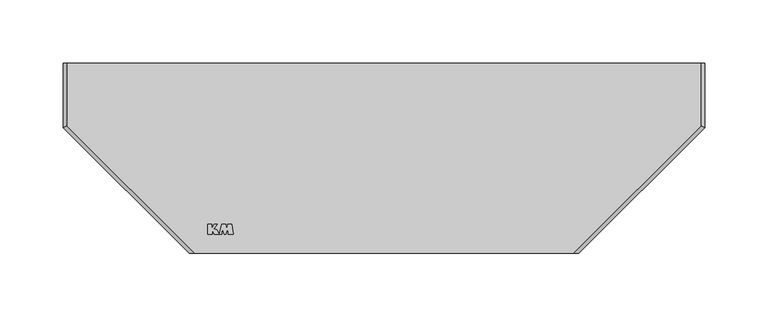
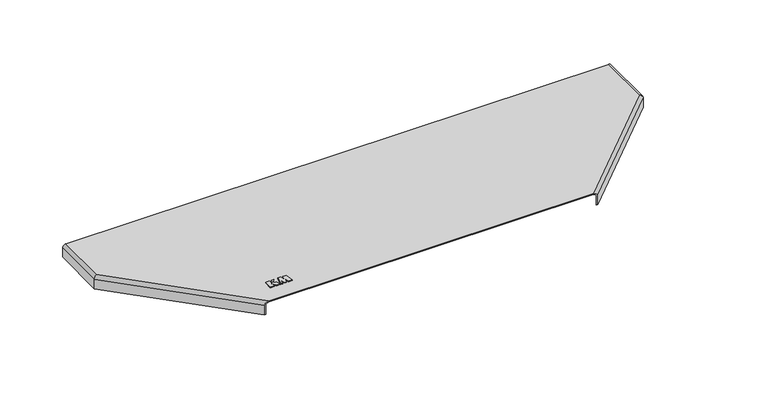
"""IFC4 building model written with IfcOpenShell, lengths in millimetres: cable carrier fitting geometry, КМ Профиль Крышка Т-ответвителя : Крышка Т-ответвителя."""

import ifcopenshell
import ifcopenshell.guid

model = None  # the IFC model being written
_history = None  # IfcOwnerHistory: only IFC2X3 demands one
_inside = {}  # id of a spatial element -> (the spatial element, [elements in it])
_under = {}  # id of a project, library or spatial element -> (it, [spatial elements below it])
_declared = {}  # id of a project -> (the project, [libraries it declares])
_typed = {}  # id of a type object -> (the type object, [elements of that type])
_made_of = {}  # id of a material, layer set ... -> (it, [elements and type objects made of it])


def new_model(schema):
    """Start an empty IFC model of exactly this schema.

    Asked for "IFC4X3", IfcOpenShell would pick the latest addendum, in which some entities
    have other attributes; the version numbers below select the first issue.
    IFC2X3 requires an IfcOwnerHistory on every rooted entity: one is made here for all.
    """
    global model, _history
    if schema == "IFC4X3":
        model = ifcopenshell.file(schema_version=(4, 3, 0, 0))
    else:
        model = ifcopenshell.file(schema=schema)
    _inside.clear()
    _under.clear()
    _declared.clear()
    _typed.clear()
    _made_of.clear()
    _history = None
    if model.schema == "IFC2X3":
        org = make("IfcOrganization", Name="unknown")
        user = make(
            "IfcPersonAndOrganization",
            ThePerson=make("IfcPerson", FamilyName="unknown"),
            TheOrganization=org,
        )
        app = make(
            "IfcApplication",
            ApplicationDeveloper=org,
            Version="unknown",
            ApplicationFullName="unknown",
            ApplicationIdentifier="unknown",
        )
        _history = make(
            "IfcOwnerHistory",
            OwningUser=user,
            OwningApplication=app,
            ChangeAction="ADDED",
            CreationDate=0,
        )
    return model


def make(cls, **values):
    """One entity of the class cls with the attributes given. An attribute that is None is left unset."""
    return model.create_entity(
        cls, **{name: value for name, value in values.items() if value is not None}
    )


def rooted(cls, **values):
    """An entity with a GlobalId (a new one), such as an element, a storey or a relation."""
    return make(cls, GlobalId=ifcopenshell.guid.new(), OwnerHistory=_history, **values)


def si_unit(unit_type, name, prefix=None):
    """IfcSIUnit, for example si_unit("LENGTHUNIT", "METRE", prefix="MILLI")."""
    return make("IfcSIUnit", UnitType=unit_type, Prefix=prefix, Name=name)


def assignment(units):
    """IfcUnitAssignment: the units of a project."""
    return None if units is None else make("IfcUnitAssignment", Units=units)


def point(xyz):
    """IfcCartesianPoint."""
    return None if xyz is None else make("IfcCartesianPoint", Coordinates=xyz)


def direction(xyz):
    """IfcDirection."""
    return None if xyz is None else make("IfcDirection", DirectionRatios=xyz)


def frame(location, z_axis=None, x_axis=None):
    """IfcAxis2Placement3D, a coordinate frame: its origin and axes. An axis left out is left unset."""
    return make(
        "IfcAxis2Placement3D",
        Location=point(location),
        Axis=direction(z_axis),
        RefDirection=direction(x_axis),
    )


def origin():
    """The frame at (0, 0, 0) with its axes left unset."""
    return frame((0.0, 0.0, 0.0))


def place(relative_to, where):
    """IfcLocalPlacement: puts the frame where relative to a parent placement (None: the world)."""
    return make(
        "IfcLocalPlacement", PlacementRelTo=relative_to, RelativePlacement=where
    )


def context(
    kind, dimensions, precision=None, world=None, true_north=None, identifier=None
):
    """IfcGeometricRepresentationContext, for example the 3D "Model" context."""
    return make(
        "IfcGeometricRepresentationContext",
        ContextIdentifier=identifier,
        ContextType=kind,
        CoordinateSpaceDimension=dimensions,
        Precision=precision,
        WorldCoordinateSystem=world,
        TrueNorth=true_north,
    )


def project(units=None, contexts=None):
    """IfcProject with its units and contexts."""
    return rooted(
        "IfcProject",
        Name="project",
        RepresentationContexts=contexts,
        UnitsInContext=assignment(units),
    )


def spatial(cls, under=None, at=None, **own):
    """A site, building, storey or space (cls), placed at a placement, below another one or the project."""
    s = rooted(cls, ObjectPlacement=at, **own)
    if under is not None:
        _under.setdefault(under.id(), (under, []))[1].append(s)
    return s


def polyline(points):
    """IfcPolyline through the points."""
    return make("IfcPolyline", Points=[point(p) for p in points])


def circle_curve(where, radius):
    """IfcCircle in the frame where."""
    return make("IfcCircle", Position=where, Radius=radius)


def ellipse_curve(where, semi_axis1, semi_axis2):
    """IfcEllipse in the frame where."""
    return make(
        "IfcEllipse", Position=where, SemiAxis1=semi_axis1, SemiAxis2=semi_axis2
    )


def outline(outer, holes=None, kind="AREA"):
    """IfcArbitraryClosedProfileDef: a profile drawn as a closed curve; with holes, ...WithVoids."""
    if holes is None:
        return make("IfcArbitraryClosedProfileDef", ProfileType=kind, OuterCurve=outer)
    return make(
        "IfcArbitraryProfileDefWithVoids",
        ProfileType=kind,
        OuterCurve=outer,
        InnerCurves=holes,
    )


def extrude(swept, where, along, depth):
    """IfcExtrudedAreaSolid: the profile swept, set in the frame where, extruded along a direction by depth."""
    return make(
        "IfcExtrudedAreaSolid",
        SweptArea=swept,
        Position=where,
        ExtrudedDirection=direction(along),
        Depth=depth,
    )


def shape(context_of_items, identifier, shape_type, items):
    """IfcShapeRepresentation: the items that make up one representation, for example the "Body"."""
    return make(
        "IfcShapeRepresentation",
        ContextOfItems=context_of_items,
        RepresentationIdentifier=identifier,
        RepresentationType=shape_type,
        Items=items,
    )


def source(mapping_origin, context_of_items, identifier, shape_type, items):
    """IfcRepresentationMap: a shape defined once, which mapped items show again and again."""
    return make(
        "IfcRepresentationMap",
        MappingOrigin=mapping_origin,
        MappedRepresentation=shape(context_of_items, identifier, shape_type, items),
    )


def transform(
    local_origin,
    x_axis=None,
    y_axis=None,
    z_axis=None,
    scale=None,
    scale2=None,
    scale3=None,
    uniform=True,
):
    """IfcCartesianTransformationOperator3D, or its non-uniform kind. x_axis, y_axis, z_axis: its Axis1, 2, 3."""
    if uniform:
        return make(
            "IfcCartesianTransformationOperator3D",
            Axis1=direction(x_axis),
            Axis2=direction(y_axis),
            LocalOrigin=point(local_origin),
            Scale=scale,
            Axis3=direction(z_axis),
        )
    return make(
        "IfcCartesianTransformationOperator3DnonUniform",
        Axis1=direction(x_axis),
        Axis2=direction(y_axis),
        LocalOrigin=point(local_origin),
        Scale=scale,
        Axis3=direction(z_axis),
        Scale2=scale2,
        Scale3=scale3,
    )


def mapped(mapping_source, mapping_target):
    """IfcMappedItem: shows the shape of a source again, moved by a transform."""
    return make(
        "IfcMappedItem", MappingSource=mapping_source, MappingTarget=mapping_target
    )


def made_of(thing, what):
    """Note that an element or type object is made of a material, layer set ...; save() writes the relation."""
    if what is not None:
        _made_of.setdefault(what.id(), (what, []))[1].append(thing)
    return thing


def element(
    cls,
    number,
    at=None,
    inside=None,
    cuts=None,
    type_object=None,
    material=None,
    context=None,
    identifier="Body",
    shape_type=None,
    held_by="IfcProductDefinitionShape",
    body=None,
    shapes=None,
    **own,
):
    """One element of the class cls, such as IfcWall. Its Tag is "e" and its number.

    at: its placement. inside: the storey or other place that contains it. cuts: it is an
    opening in that element (IfcRelVoidsElement). A single representation is given by context,
    identifier, shape_type and body (its items); several are given by shapes. held_by: the class
    of the entity that holds the representations. save() writes the other relations.
    """
    e = rooted(cls, Tag="e%d" % number, ObjectPlacement=at, **own)
    if body is not None:
        shapes = [shape(context, identifier, shape_type, body)]
    if shapes is not None:
        e.Representation = make(held_by, Representations=shapes)
    if inside is not None:
        _inside.setdefault(inside.id(), (inside, []))[1].append(e)
    if cuts is not None:
        rooted(
            "IfcRelVoidsElement", RelatingBuildingElement=cuts, RelatedOpeningElement=e
        )
    if type_object is not None:
        _typed.setdefault(type_object.id(), (type_object, []))[1].append(e)
    return made_of(e, material)


def aggregate(whole, parts):
    """IfcRelAggregates: a whole, such as a stair, and the parts it consists of."""
    return rooted("IfcRelAggregates", RelatingObject=whole, RelatedObjects=parts)


def save(model, path):
    """Write the relations noted so far, then the file.

    IfcRelAggregates (storeys below a building ...), IfcRelContainedInSpatialStructure (elements
    in a storey), IfcRelDefinesByType, IfcRelAssociatesMaterial and IfcRelDeclares: one each for
    every whole, place, type object, material and project.
    """
    for whole, parts in _under.values():
        aggregate(whole, parts)
    for where, things in _inside.values():
        rooted(
            "IfcRelContainedInSpatialStructure",
            RelatedElements=things,
            RelatingStructure=where,
        )
    for kind, things in _typed.values():
        rooted("IfcRelDefinesByType", RelatedObjects=things, RelatingType=kind)
    for what, things in _made_of.values():
        rooted("IfcRelAssociatesMaterial", RelatedObjects=things, RelatingMaterial=what)
    for by, libraries in _declared.values():
        rooted("IfcRelDeclares", RelatingContext=by, RelatedDefinitions=libraries)
    model.write(path)


def plane_surface(at):
    """IfcPlane: the flat surface through the origin of the frame at, square to its z axis."""
    return make("IfcPlane", Position=at)


def cylinder_surface(at, radius):
    """IfcCylindricalSurface: all points at the distance radius from the z axis of the frame at."""
    return make("IfcCylindricalSurface", Position=at, Radius=radius)


def revolved_surface(curve, axis_point, axis_direction):
    """IfcSurfaceOfRevolution: the curve turned about the line through axis_point along axis_direction."""
    return make(
        "IfcSurfaceOfRevolution",
        SweptCurve=make("IfcArbitraryOpenProfileDef", ProfileType="CURVE", Curve=curve),
        AxisPosition=make("IfcAxis1Placement", Location=point(axis_point), Axis=direction(axis_direction)),
    )


def advanced_brep(points, edges, surfaces, faces):
    """IfcAdvancedBrep: a solid bounded by faces that lie on surfaces and meet in shared edges.

    An edge is (start, end): straight between two places in points (the first is 0);
    or (start, end, curve); or (start, end, curve, False) where it runs against its curve.
    A face is (place in surfaces, loops), or (place, loops, False) where it looks against
    its surface's normal. A loop lists edges by number (the first is 1), with a minus sign
    where the edge is run from its end to its start. The first loop is the outer one.
    """
    corners = [point(p) for p in points]
    vertices = [make("IfcVertexPoint", VertexGeometry=c) for c in corners]
    made = []
    for start, end, *more in edges:
        made.append(
            make(
                "IfcEdgeCurve",
                EdgeStart=vertices[start],
                EdgeEnd=vertices[end],
                EdgeGeometry=more[0] if more else make("IfcPolyline", Points=[corners[start], corners[end]]),
                SameSense=more[1] if len(more) > 1 else True,
            )
        )
    hull = []
    for where, loops, *sense in faces:
        bounds = []
        for j, loop in enumerate(loops):
            ring = [make("IfcOrientedEdge", EdgeElement=made[abs(k) - 1], Orientation=k > 0) for k in loop]
            bounds.append(
                make(
                    "IfcFaceOuterBound" if j == 0 else "IfcFaceBound",
                    Bound=make("IfcEdgeLoop", EdgeList=ring),
                    Orientation=True,
                )
            )
        hull.append(make("IfcAdvancedFace", Bounds=bounds, FaceSurface=surfaces[where], SameSense=sense[0] if sense else True))
    return make("IfcAdvancedBrep", Outer=make("IfcClosedShell", CfsFaces=hull))


def cable_carrier_fitting_2c5ead5b(model_context):
    return source(origin(), model_context, "Body", "SolidModel", [
        extrude(outline(polyline([(-139.2388781, -126.986157), (-135.7316192, -126.986157), (-135.7316192, -130.564509), (-133.8289757, -126.986157), (-131.703011, -126.986157), (-134.1694955, -130.5086619), (-131.9277444, -131.194034), (-130.0604353, -134.737421), (-133.9588467, -134.737421), (-135.6630512, -131.5720802), (-135.6630512, -134.737421), (-139.2388781, -134.737421), (-139.2388781, -126.986157)])), frame((0.0, 0.0, 3.0), z_axis=(0.0, 0.0, 1.0), x_axis=(1.0, 0.0, 0.0)), (0.0, 0.0, 1.0), 0.8),
        extrude(outline(polyline([(-127.9962759, -134.737421), (-129.8943395, -134.737421), (-128.0740589, -126.9647569), (-125.0433304, -126.9647569), (-124.2768297, -130.0390232), (-123.2555223, -126.9623682), (-120.0615674, -126.9623682), (-118.8700699, -134.7429915), (-122.7725105, -134.7429915), (-123.2500032, -130.0541919), (-124.7300717, -134.7434681), (-126.2045824, -134.7434681), (-127.6126012, -130.0696135), (-127.9962759, -134.737421)])), frame((0.0, 0.0, 3.0), z_axis=(0.0, 0.0, 1.0), x_axis=(1.0, 0.0, 0.0)), (0.0, 0.0, 1.0), 0.8),
        advanced_brep(
        [(250.0, 0.0, 3.0), (-250.0, 0.0, 3.0), (-250.0, -49.5, 3.0), (-149.5, -150.0, 3.0), (149.5, -150.0, 3.0), (250.0, -49.5, 3.0), (-250.0, 0.0, 2.0), (250.0, 0.0, 2.0), (250.0, -49.5, 2.0), (149.5, -150.0, 2.0), (-149.5, -150.0, 2.0), (-250.0, -49.5, 2.0), (253.0, 0.0, 0.0), (253.0, 0.0, -9.0), (252.0, 0.0, -9.0), (252.0, 0.0, 0.0), (-252.0, 0.0, 0.0), (-252.0, 0.0, -9.0), (-253.0, 0.0, -9.0), (-253.0, 0.0, 0.0), (253.0, -50.7426407, -9.0), (153.7426407, -150.0, -9.0), (152.3284271, -150.0, -9.0), (252.0, -50.3284271, -9.0), (-252.0, -50.3284271, -9.0), (-152.3284271, -150.0, -9.0), (-153.7426407, -150.0, -9.0), (-253.0, -50.7426407, -9.0), (-252.0, -50.3284271, 0.0), (-152.3284271, -150.0, 0.0), (-253.0, -50.7426407, 0.0), (-153.7426407, -150.0, 0.0), (252.0, -50.3284271, 0.0), (152.3284271, -150.0, 0.0), (253.0, -50.7426407, 0.0), (153.7426407, -150.0, 0.0)],
        [
            (0, 1),
            (1, 2),
            (2, 3),
            (3, 4),
            (4, 5),
            (5, 0),
            (6, 7),
            (7, 8),
            (8, 9),
            (9, 10),
            (10, 11),
            (11, 6),
            (0, 12, circle_curve(frame((250.0, 0.0, 0.0), z_axis=(0.0, 1.0, 0.0), x_axis=(-1.0, 0.0, 0.0)), 3.0)),
            (12, 13),
            (13, 14),
            (14, 15),
            (15, 7, circle_curve(frame((250.0, 0.0, 0.0), z_axis=(0.0, -1.0, 0.0), x_axis=(-1.0, 0.0, 0.0)), 2.0)),
            (6, 16, circle_curve(frame((-250.0, 0.0, 0.0), z_axis=(0.0, -1.0, 0.0), x_axis=(1.0, 0.0, 0.0)), 2.0)),
            (16, 17),
            (17, 18),
            (18, 19),
            (19, 1, circle_curve(frame((-250.0, 0.0, 0.0), z_axis=(0.0, 1.0, 0.0), x_axis=(1.0, 0.0, 0.0)), 3.0)),
            (13, 20),
            (20, 21),
            (21, 22),
            (22, 23),
            (23, 14),
            (17, 24),
            (24, 25),
            (25, 26),
            (26, 27),
            (27, 18),
            (28, 11, ellipse_curve(frame((-250.0, -49.5, 0.0), z_axis=(-0.38268343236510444, 0.9238795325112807, 0.0), x_axis=(0.9238795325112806, 0.38268343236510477, 0.0)), 2.1647844, 2.0)),
            (10, 29, ellipse_curve(frame((-149.5, -150.0, 0.0), z_axis=(0.0, -1.0, 0.0), x_axis=(1.0, 0.0, 0.0)), 2.8284271, 2.0)),
            (29, 28),
            (24, 28),
            (29, 25),
            (30, 27),
            (26, 31),
            (31, 30),
            (2, 30, ellipse_curve(frame((-250.0, -49.5, 0.0), z_axis=(0.38268343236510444, -0.9238795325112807, 0.0), x_axis=(-0.9238795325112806, -0.38268343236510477, 0.0)), 3.2471766, 3.0)),
            (31, 3, ellipse_curve(frame((-149.5, -150.0, 0.0), z_axis=(0.0, 1.0, 0.0), x_axis=(-1.0, 0.0, 0.0)), 4.2426407, 3.0)),
            (8, 32, ellipse_curve(frame((250.0, -49.5, 0.0), z_axis=(0.38268343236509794, 0.9238795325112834, 0.0), x_axis=(0.9238795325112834, -0.38268343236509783, 0.0)), 2.1647844, 2.0)),
            (32, 33),
            (33, 9, ellipse_curve(frame((149.5, -150.0, 0.0), z_axis=(0.0, -1.0, 0.0), x_axis=(1.0, 0.0, 0.0)), 2.8284271, 2.0)),
            (32, 23),
            (22, 33),
            (20, 34),
            (34, 35),
            (35, 21),
            (34, 5, ellipse_curve(frame((250.0, -49.5, 0.0), z_axis=(-0.38268343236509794, -0.9238795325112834, 0.0), x_axis=(-0.9238795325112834, 0.38268343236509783, 0.0)), 3.2471766, 3.0)),
            (4, 35, ellipse_curve(frame((149.5, -150.0, 0.0), z_axis=(0.0, 1.0, 0.0), x_axis=(-1.0, 0.0, 0.0)), 4.2426407, 3.0)),
            (28, 16),
            (30, 19),
            (15, 32),
            (12, 34),
        ],
        [
            plane_surface(frame((-250.0, -49.5, 3.0), z_axis=(0.0, 0.0, 1.0), x_axis=(0.7071067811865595, -0.7071067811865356, 0.0))),
            plane_surface(frame((-250.0, -49.5, 2.0), z_axis=(0.0, 0.0, -1.0), x_axis=(-0.7071067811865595, 0.7071067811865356, 0.0))),
            plane_surface(frame((250.0, 0.0, 3.0), z_axis=(0.0, 1.0, 0.0), x_axis=(0.0, 0.0, -1.0))),
            plane_surface(frame((-252.0, 0.0, -9.0), z_axis=(0.0, 0.0, -1.0), x_axis=(0.0, -1.0, 0.0))),
            revolved_surface(polyline([(-146.6715728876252, -149.9999999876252, 0.0), (-249.17157288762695, -47.499999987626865, 0.0)]), (-250.0, -49.5, 0.0), (0.7071067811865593, -0.7071067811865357, 0.0)),
            plane_surface(frame((-252.0, -50.3284271, 0.0), z_axis=(0.7071067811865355, 0.7071067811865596, 0.0), x_axis=(0.7071067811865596, -0.7071067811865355, 0.0))),
            plane_surface(frame((-253.0, -50.7426407, -9.0), z_axis=(-0.7071067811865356, -0.7071067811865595, 0.0), x_axis=(0.7071067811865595, -0.7071067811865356, 0.0))),
            cylinder_surface(frame((-250.0, -49.5, 0.0), z_axis=(-0.7071067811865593, 0.7071067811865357, 0.0), x_axis=(0.7071067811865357, 0.7071067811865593, 0.0)), 3.0),
            revolved_surface(polyline([(249.1715728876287, -47.49999998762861, 0.0), (146.67157288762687, -149.9999999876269, 0.0)]), (149.5, -150.0, 0.0), (0.7071067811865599, 0.7071067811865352, 0.0)),
            plane_surface(frame((150.3284271, -152.0, 0.0), z_axis=(-0.7071067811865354, 0.7071067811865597, 0.0), x_axis=(0.7071067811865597, 0.7071067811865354, 0.0))),
            plane_surface(frame((150.7426407, -153.0, -9.0), z_axis=(0.7071067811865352, -0.7071067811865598, 0.0), x_axis=(0.7071067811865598, 0.7071067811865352, 0.0))),
            cylinder_surface(frame((149.5, -150.0, 0.0), z_axis=(-0.7071067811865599, -0.7071067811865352, 0.0), x_axis=(-0.7071067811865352, 0.7071067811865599, 0.0)), 3.0),
            plane_surface(frame((162.5, -150.0, 3.0), z_axis=(0.0, -1.0, 0.0), x_axis=(0.0, 0.0, -1.0))),
            revolved_surface(polyline([(-248.0, -50.328427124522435, 0.0), (-248.0, 0.0, 0.0)]), (-250.0, 0.0, 0.0), (0.0, -1.0, 0.0)),
            plane_surface(frame((-252.0, 0.0, 0.0), z_axis=(1.0, 0.0, 0.0), x_axis=(0.0, -1.0, 0.0))),
            plane_surface(frame((-253.0, 0.0, -9.0), z_axis=(-1.0, 0.0, 0.0), x_axis=(0.0, -1.0, 0.0))),
            cylinder_surface(frame((-250.0, 0.0, 0.0), z_axis=(0.0, 1.0, 0.0), x_axis=(1.0, 0.0, 0.0)), 3.0),
            revolved_surface(polyline([(248.0, 0.0, 0.0), (248.0, -50.32842712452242, 0.0)]), (250.0, -49.5, 0.0), (0.0, 1.0, 0.0)),
            plane_surface(frame((252.0, -50.3284271, 0.0), z_axis=(-1.0, 0.0, 0.0), x_axis=(0.0, 1.0, 0.0))),
            plane_surface(frame((253.0, -50.7426407, -9.0), z_axis=(1.0, 0.0, 0.0), x_axis=(0.0, 1.0, 0.0))),
            cylinder_surface(frame((250.0, -49.5, 0.0), z_axis=(0.0, -1.0, 0.0), x_axis=(-1.0, 0.0, 0.0)), 3.0),
        ],
        [
            (0, [[1, 2, 3, 4, 5, 6]]),
            (1, [[7, 8, 9, 10, 11, 12]]),
            (2, [[-1, 13, 14, 15, 16, 17, -7, 18, 19, 20, 21, 22]]),
            (3, [[-15, 23, 24, 25, 26, 27]]),
            (3, [[-20, 28, 29, 30, 31, 32]]),
            (4, [[33, -11, 34, 35]]),
            (5, [[36, -35, 37, -29]]),
            (6, [[38, -31, 39, 40]]),
            (7, [[41, -40, 42, -3]]),
            (8, [[43, 44, 45, -9]]),
            (9, [[46, -26, 47, -44]]),
            (10, [[48, 49, 50, -24]]),
            (11, [[51, -5, 52, -49]]),
            (12, [[-4, -42, -39, -30, -37, -34, -10, -45, -47, -25, -50, -52]]),
            (13, [[-18, -12, -33, 53]]),
            (14, [[-19, -53, -36, -28]]),
            (15, [[-21, -32, -38, 54]]),
            (16, [[-22, -54, -41, -2]]),
            (17, [[-17, 55, -43, -8]]),
            (18, [[-16, -27, -46, -55]]),
            (19, [[-14, 56, -48, -23]]),
            (20, [[-13, -6, -51, -56]]),
        ],
    ),
    ])


if __name__ == "__main__":
    model = new_model("IFC4")
    model_context = context("Model", 3, world=origin())
    ifc_project = project(units=[si_unit("LENGTHUNIT", "METRE", prefix="MILLI")], contexts=[model_context])
    site = spatial("IfcSite", under=ifc_project)
    building = spatial("IfcBuilding", under=site)
    placement = place(None, origin())
    cable_carrier_fitting_shape = cable_carrier_fitting_2c5ead5b(model_context)
    element("IfcCableCarrierFitting", 1, ObjectType="КМ Профиль Крышка Т-ответвителя : Крышка Т-ответвителя", at=placement, inside=building, context=model_context, shape_type="MappedRepresentation", body=[
        mapped(cable_carrier_fitting_shape, transform((0.0, 0.0, 0.0), x_axis=(1.0, 0.0, 0.0), y_axis=(0.0, 1.0, 0.0), z_axis=(0.0, 0.0, 1.0))),
    ])
    save(model, "model.ifc")
